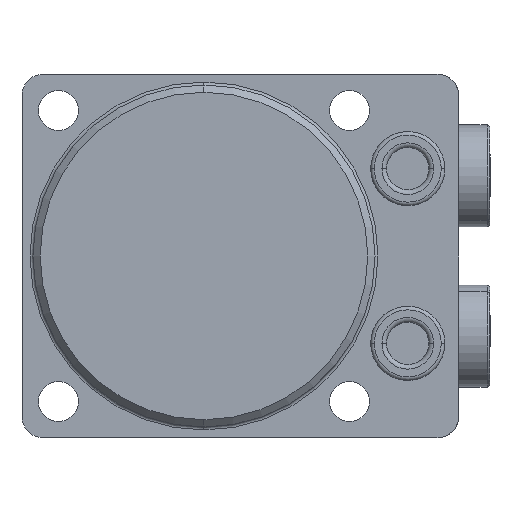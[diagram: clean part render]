
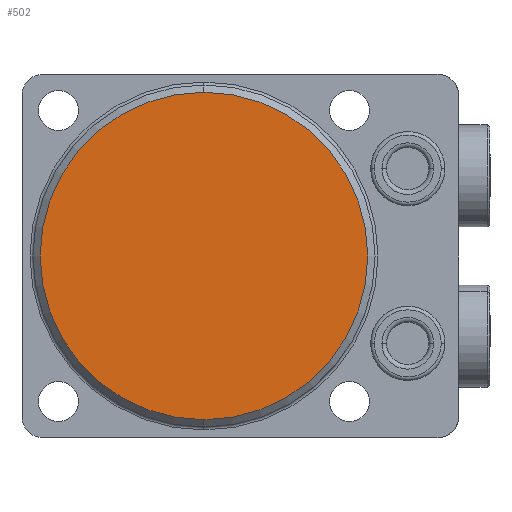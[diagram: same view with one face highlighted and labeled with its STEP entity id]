
A CAD part, front view. The second image highlights one B-rep face of the part: STEP entity #502.
In plain terms, the highlighted planar face has unit normal (0, -1, 0) as drawn and (0, 1, 0) by its records, which use the part's own axes.
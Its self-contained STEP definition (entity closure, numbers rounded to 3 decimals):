
#220=PLANE('',#3308);
#502=ADVANCED_FACE('',(#710),#220,.T.);
#710=FACE_OUTER_BOUND('',#898,.F.);
#898=EDGE_LOOP('',(#1901,#1902));
#1901=ORIENTED_EDGE('',*,*,#2756,.T.);
#1902=ORIENTED_EDGE('',*,*,#2695,.T.);
#2337=VERTEX_POINT('',#5139);
#2338=VERTEX_POINT('',#5140);
#2695=EDGE_CURVE('',#2337,#2338,#2956,.T.);
#2756=EDGE_CURVE('',#2338,#2337,#2978,.T.);
#2956=CIRCLE('',#3272,22.5);
#2978=CIRCLE('',#3307,22.5);
#3272=AXIS2_PLACEMENT_3D('',#5138,#4043,#4044);
#3307=AXIS2_PLACEMENT_3D('',#5268,#4147,#4148);
#3308=AXIS2_PLACEMENT_3D('',#5269,#4149,#4150);
#4043=DIRECTION('',(0.,-1.,0.));
#4044=DIRECTION('',(0.,0.,1.));
#4147=DIRECTION('',(0.,-1.,0.));
#4148=DIRECTION('',(0.,0.,1.));
#4149=DIRECTION('',(0.,1.,0.));
#4150=DIRECTION('',(0.,0.,-1.));
#5138=CARTESIAN_POINT('',(0.,0.,0.));
#5139=CARTESIAN_POINT('',(0.,0.,-22.5));
#5140=CARTESIAN_POINT('',(0.,0.,22.5));
#5268=CARTESIAN_POINT('',(0.,0.,0.));
#5269=CARTESIAN_POINT('',(-25.,0.,25.));
